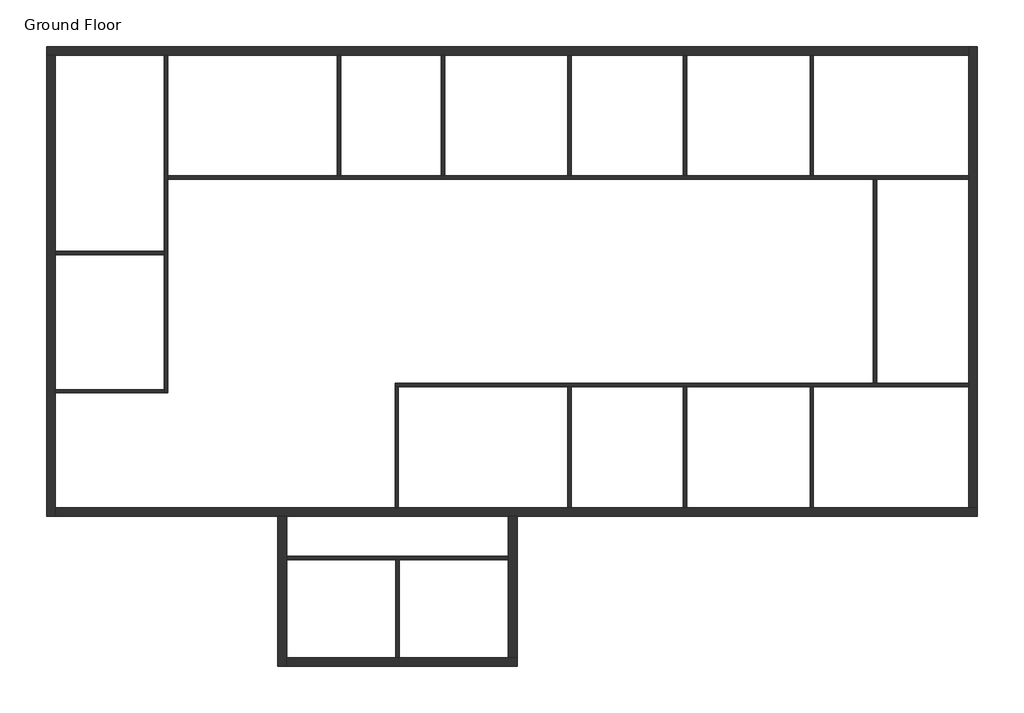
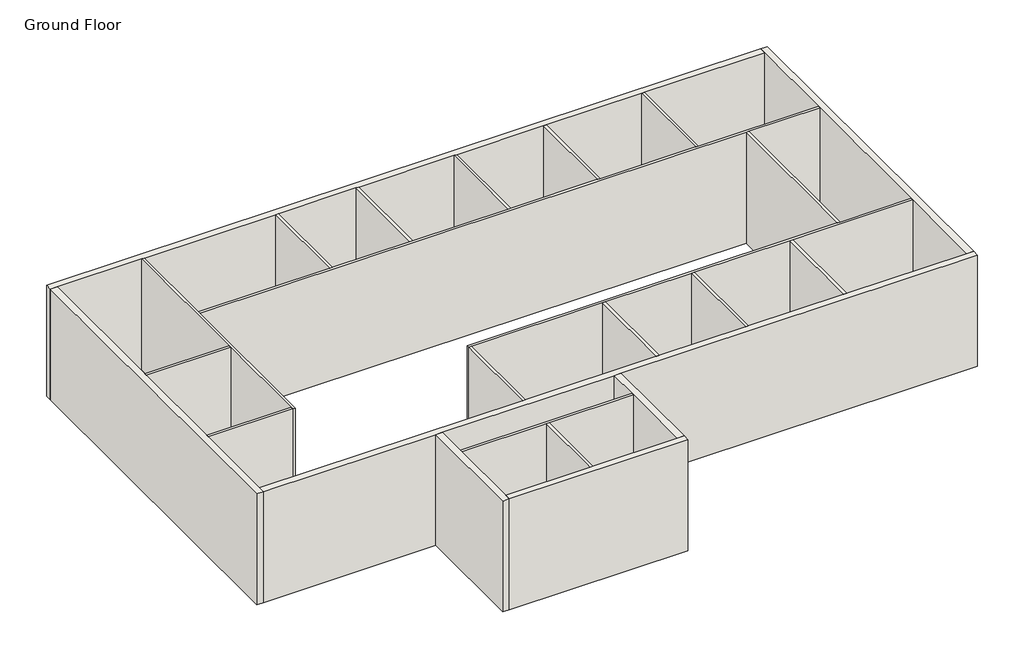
# One storey: 24 walls.
"""IFC4 building model written with IfcOpenShell, lengths in millimetres."""

from ifc_helpers import new_model, si_unit, origin, origin_with_axes, place, context, project, spatial, polyline, outline, extrude, faceted_brep, element, save

model = new_model("IFC4")

# Units and contexts
model_context = context("Model", 3, world=origin())
ifc_project = project(units=[si_unit("LENGTHUNIT", "METRE", prefix="MILLI")], contexts=[model_context])

# Site, building, storey
site = spatial("IfcSite", under=ifc_project)
building = spatial("IfcBuilding", under=site)
storey = spatial("IfcBuildingStorey", under=building, Name="Ground Floor", Elevation=0.0)

# Walls
placement = place(None, origin())
element("IfcWall", 1, ObjectType="Generic - 230mm", at=placement, inside=storey, context=model_context, shape_type="Brep", body=[
    faceted_brep([(-17812.7301809, 6012.2584762, 0.0), (-17582.7301809, 6012.2584762, 0.0), (-14694.7301809, 6012.2584762, 0.0), (-14604.7301809, 6012.2584762, 0.0), (-10122.7301809, 6012.2584762, 0.0), (-10032.7301809, 6012.2584762, 0.0), (-7379.5301809, 6012.2584762, 0.0), (-7289.5301809, 6012.2584762, 0.0), (-4026.7301809, 6012.2584762, 0.0), (-3936.7301809, 6012.2584762, 0.0), (-978.7301809, 6012.2584762, 0.0), (-888.7301809, 6012.2584762, 0.0), (2374.0698191, 6012.2584762, 0.0), (2464.0698191, 6012.2584762, 0.0), (6571.2698191, 6012.2584762, 0.0), (6571.2698191, 6012.2584762, 4000.0), (2464.0698191, 6012.2584762, 4000.0), (2374.0698191, 6012.2584762, 4000.0), (-888.7301809, 6012.2584762, 4000.0), (-978.7301809, 6012.2584762, 4000.0), (-3936.7301809, 6012.2584762, 4000.0), (-4026.7301809, 6012.2584762, 4000.0), (-7289.5301809, 6012.2584762, 4000.0), (-7379.5301809, 6012.2584762, 4000.0), (-10032.7301809, 6012.2584762, 4000.0), (-10122.7301809, 6012.2584762, 4000.0), (-14604.7301809, 6012.2584762, 4000.0), (-14694.7301809, 6012.2584762, 4000.0), (-17582.7301809, 6012.2584762, 4000.0), (-17812.7301809, 6012.2584762, 4000.0), (-17812.7301809, 6242.2584762, 0.0), (-17812.7301809, 6242.2584762, 4000.0), (6571.2698191, 6242.2584762, 4000.0), (6571.2698191, 6242.2584762, 0.0)], [[[0, 1, 2, 3, 4, 5, 6, 7, 8, 9, 10, 11, 12, 13, 14, 15, 16, 17, 18, 19, 20, 21, 22, 23, 24, 25, 26, 27, 28, 29]], [[30, 31, 32, 33]], [[14, 13, 12, 11, 10, 9, 8, 7, 6, 5, 4, 3, 2, 1, 0, 30, 33]], [[29, 28, 27, 26, 25, 24, 23, 22, 21, 20, 19, 18, 17, 16, 15, 32, 31]], [[0, 29, 31, 30]], [[15, 14, 33, 32]]]),
])
element("IfcWall", 2, ObjectType="Generic - 230mm", at=placement, inside=storey, context=model_context, shape_type="Brep", body=[
    faceted_brep([(-17582.7301809, -6179.7415238, 0.0), (-17582.7301809, -5949.7415238, 0.0), (-17582.7301809, -2917.7415238, 0.0), (-17582.7301809, -2827.7415238, 0.0), (-17582.7301809, 739.8584762, 0.0), (-17582.7301809, 829.8584762, 0.0), (-17582.7301809, 6012.2584762, 0.0), (-17582.7301809, 6012.2584762, 4000.0), (-17582.7301809, 829.8584762, 4000.0), (-17582.7301809, 739.8584762, 4000.0), (-17582.7301809, -2827.7415238, 4000.0), (-17582.7301809, -2917.7415238, 4000.0), (-17582.7301809, -5949.7415238, 4000.0), (-17582.7301809, -6179.7415238, 4000.0), (-17812.7301809, -6179.7415238, 0.0), (-17812.7301809, -6179.7415238, 4000.0), (-17812.7301809, 6012.2584762, 4000.0), (-17812.7301809, 6012.2584762, 0.0)], [[[0, 1, 2, 3, 4, 5, 6, 7, 8, 9, 10, 11, 12, 13]], [[14, 15, 16, 17]], [[6, 5, 4, 3, 2, 1, 0, 14, 17]], [[13, 12, 11, 10, 9, 8, 7, 16, 15]], [[0, 13, 15, 14]], [[7, 6, 17, 16]]]),
])
element("IfcWall", 3, ObjectType="Generic - 230mm", at=placement, inside=storey, context=model_context, shape_type="Brep", body=[
    faceted_brep([(6801.2698191, -5949.7415238, 0.0), (6571.2698191, -5949.7415238, 0.0), (2464.0698191, -5949.7415238, 0.0), (2374.0698191, -5949.7415238, 0.0), (-888.7301809, -5949.7415238, 0.0), (-978.7301809, -5949.7415238, 0.0), (-3936.7301809, -5949.7415238, 0.0), (-4026.7301809, -5949.7415238, 0.0), (-8508.7301809, -5949.7415238, 0.0), (-8598.7301809, -5949.7415238, 0.0), (-17582.7301809, -5949.7415238, 0.0), (-17582.7301809, -5949.7415238, 4000.0), (-8598.7301809, -5949.7415238, 4000.0), (-8508.7301809, -5949.7415238, 4000.0), (-4026.7301809, -5949.7415238, 4000.0), (-3936.7301809, -5949.7415238, 4000.0), (-978.7301809, -5949.7415238, 4000.0), (-888.7301809, -5949.7415238, 4000.0), (2374.0698191, -5949.7415238, 4000.0), (2464.0698191, -5949.7415238, 4000.0), (6571.2698191, -5949.7415238, 4000.0), (6801.2698191, -5949.7415238, 4000.0), (6801.2698191, -6179.7415238, 0.0), (6801.2698191, -6179.7415238, 4000.0), (-5371.7301809, -6179.7415238, 4000.0), (-5601.7301809, -6179.7415238, 4000.0), (-11467.7301809, -6179.7415238, 4000.0), (-11697.7301809, -6179.7415238, 4000.0), (-17582.7301809, -6179.7415238, 4000.0), (-17582.7301809, -6179.7415238, 0.0), (-11697.7301809, -6179.7415238, 0.0), (-11467.7301809, -6179.7415238, 0.0), (-5601.7301809, -6179.7415238, 0.0), (-5371.7301809, -6179.7415238, 0.0)], [[[0, 1, 2, 3, 4, 5, 6, 7, 8, 9, 10, 11, 12, 13, 14, 15, 16, 17, 18, 19, 20, 21]], [[22, 23, 24, 25, 26, 27, 28, 29, 30, 31, 32, 33]], [[10, 9, 8, 7, 6, 5, 4, 3, 2, 1, 0, 22, 33, 32, 31, 30, 29]], [[21, 20, 19, 18, 17, 16, 15, 14, 13, 12, 11, 28, 27, 26, 25, 24, 23]], [[0, 21, 23, 22]], [[11, 10, 29, 28]]]),
])
element("IfcWall", 4, ObjectType="Generic - 230mm", at=placement, inside=storey, context=model_context, shape_type="Brep", body=[
    faceted_brep([(6571.2698191, 6242.2584762, 0.0), (6571.2698191, 6012.2584762, 0.0), (6571.2698191, 2819.4584762, 0.0), (6571.2698191, 2729.4584762, 0.0), (6571.2698191, -2666.9415238, 0.0), (6571.2698191, -2756.9415238, 0.0), (6571.2698191, -5949.7415238, 0.0), (6571.2698191, -5949.7415238, 4000.0), (6571.2698191, -2756.9415238, 4000.0), (6571.2698191, -2666.9415238, 4000.0), (6571.2698191, 2729.4584762, 4000.0), (6571.2698191, 2819.4584762, 4000.0), (6571.2698191, 6012.2584762, 4000.0), (6571.2698191, 6242.2584762, 4000.0), (6801.2698191, 6242.2584762, 0.0), (6801.2698191, 6242.2584762, 4000.0), (6801.2698191, -5949.7415238, 4000.0), (6801.2698191, -5949.7415238, 0.0)], [[[0, 1, 2, 3, 4, 5, 6, 7, 8, 9, 10, 11, 12, 13]], [[14, 15, 16, 17]], [[6, 5, 4, 3, 2, 1, 0, 14, 17]], [[13, 12, 11, 10, 9, 8, 7, 16, 15]], [[0, 13, 15, 14]], [[7, 6, 17, 16]]]),
])
element("IfcWall", 5, ObjectType="Generic - 230mm", at=placement, inside=storey, context=model_context, shape_type="Brep", body=[
    faceted_brep([(-11697.7301809, -6179.7415238, 0.0), (-11697.7301809, -10142.1415238, 0.0), (-11697.7301809, -10142.1415238, 4000.0), (-11697.7301809, -6179.7415238, 4000.0), (-11467.7301809, -6179.7415238, 0.0), (-11467.7301809, -6179.7415238, 4000.0), (-11467.7301809, -7238.9415238, 4000.0), (-11467.7301809, -7328.9415238, 4000.0), (-11467.7301809, -9912.1415238, 4000.0), (-11467.7301809, -10142.1415238, 4000.0), (-11467.7301809, -10142.1415238, 0.0), (-11467.7301809, -9912.1415238, 0.0), (-11467.7301809, -7328.9415238, 0.0), (-11467.7301809, -7238.9415238, 0.0)], [[[0, 1, 2, 3]], [[4, 5, 6, 7, 8, 9, 10, 11, 12, 13]], [[1, 0, 4, 13, 12, 11, 10]], [[3, 2, 9, 8, 7, 6, 5]], [[0, 3, 5, 4]], [[2, 1, 10, 9]]]),
])
element("IfcWall", 6, ObjectType="Generic - 230mm", at=placement, inside=storey, context=model_context, shape_type="Brep", body=[
    faceted_brep([(-11467.7301809, -10142.1415238, 0.0), (-5371.7301809, -10142.1415238, 0.0), (-5371.7301809, -10142.1415238, 4000.0), (-11467.7301809, -10142.1415238, 4000.0), (-11467.7301809, -9912.1415238, 0.0), (-11467.7301809, -9912.1415238, 4000.0), (-8579.7301809, -9912.1415238, 4000.0), (-8489.7301809, -9912.1415238, 4000.0), (-5601.7301809, -9912.1415238, 4000.0), (-5371.7301809, -9912.1415238, 4000.0), (-5371.7301809, -9912.1415238, 0.0), (-5601.7301809, -9912.1415238, 0.0), (-8489.7301809, -9912.1415238, 0.0), (-8579.7301809, -9912.1415238, 0.0)], [[[0, 1, 2, 3]], [[4, 5, 6, 7, 8, 9, 10, 11, 12, 13]], [[1, 0, 4, 13, 12, 11, 10]], [[3, 2, 9, 8, 7, 6, 5]], [[0, 3, 5, 4]], [[2, 1, 10, 9]]]),
])
element("IfcWall", 7, ObjectType="Generic - 230mm", at=placement, inside=storey, context=model_context, shape_type="Brep", body=[
    faceted_brep([(-5371.7301809, -9912.1415238, 0.0), (-5371.7301809, -6179.7415238, 0.0), (-5371.7301809, -6179.7415238, 4000.0), (-5371.7301809, -9912.1415238, 4000.0), (-5601.7301809, -9912.1415238, 0.0), (-5601.7301809, -9912.1415238, 4000.0), (-5601.7301809, -7328.9415238, 4000.0), (-5601.7301809, -7238.9415238, 4000.0), (-5601.7301809, -6179.7415238, 4000.0), (-5601.7301809, -6179.7415238, 0.0), (-5601.7301809, -7238.9415238, 0.0), (-5601.7301809, -7328.9415238, 0.0)], [[[0, 1, 2, 3]], [[4, 5, 6, 7, 8, 9, 10, 11]], [[1, 0, 4, 11, 10, 9]], [[3, 2, 8, 7, 6, 5]], [[0, 3, 5, 4]], [[2, 1, 9, 8]]]),
])
element("IfcWall", 8, ObjectType="Generic - 90mm Brick", at=placement, inside=storey, context=model_context, shape_type="Brep", body=[
    faceted_brep([(-14694.7301809, 6012.2584762, 0.0), (-14694.7301809, 829.8584762, 0.0), (-14694.7301809, 739.8584762, 0.0), (-14694.7301809, -2827.7415238, 0.0), (-14694.7301809, -2917.7415238, 0.0), (-14694.7301809, -2917.7415238, 4000.0), (-14694.7301809, -2827.7415238, 4000.0), (-14694.7301809, 739.8584762, 4000.0), (-14694.7301809, 829.8584762, 4000.0), (-14694.7301809, 6012.2584762, 4000.0), (-14604.7301809, 6012.2584762, 0.0), (-14604.7301809, 6012.2584762, 4000.0), (-14604.7301809, 2819.4584762, 4000.0), (-14604.7301809, 2729.4584762, 4000.0), (-14604.7301809, -2917.7415238, 4000.0), (-14604.7301809, -2917.7415238, 0.0), (-14604.7301809, 2729.4584762, 0.0), (-14604.7301809, 2819.4584762, 0.0)], [[[0, 1, 2, 3, 4, 5, 6, 7, 8, 9]], [[10, 11, 12, 13, 14, 15, 16, 17]], [[4, 3, 2, 1, 0, 10, 17, 16, 15]], [[9, 8, 7, 6, 5, 14, 13, 12, 11]], [[0, 9, 11, 10]], [[5, 4, 15, 14]]]),
])
element("IfcWall", 9, ObjectType="Generic - 90mm Brick", at=placement, inside=storey, context=model_context, shape_type="SweptSolid", body=[
    extrude(outline(polyline([(-17582.7301809, -2827.7415238), (-14694.7301809, -2827.7415238), (-14694.7301809, -2917.7415238), (-17582.7301809, -2917.7415238), (-17582.7301809, -2827.7415238)])), origin_with_axes(), (0.0, 0.0, 1.0), 4000.0),
])
element("IfcWall", 10, ObjectType="Generic - 90mm Brick", at=placement, inside=storey, context=model_context, shape_type="Brep", body=[
    faceted_brep([(-14604.7301809, 2729.4584762, 0.0), (4050.4698191, 2729.4584762, 0.0), (4140.4698191, 2729.4584762, 0.0), (6571.2698191, 2729.4584762, 0.0), (6571.2698191, 2729.4584762, 4000.0), (4140.4698191, 2729.4584762, 4000.0), (4050.4698191, 2729.4584762, 4000.0), (-14604.7301809, 2729.4584762, 4000.0), (-14604.7301809, 2819.4584762, 0.0), (-14604.7301809, 2819.4584762, 4000.0), (-10122.7301809, 2819.4584762, 4000.0), (-10032.7301809, 2819.4584762, 4000.0), (-7379.5301809, 2819.4584762, 4000.0), (-7289.5301809, 2819.4584762, 4000.0), (-4026.7301809, 2819.4584762, 4000.0), (-3936.7301809, 2819.4584762, 4000.0), (-978.7301809, 2819.4584762, 4000.0), (-888.7301809, 2819.4584762, 4000.0), (2374.0698191, 2819.4584762, 4000.0), (2464.0698191, 2819.4584762, 4000.0), (6571.2698191, 2819.4584762, 4000.0), (6571.2698191, 2819.4584762, 0.0), (2464.0698191, 2819.4584762, 0.0), (2374.0698191, 2819.4584762, 0.0), (-888.7301809, 2819.4584762, 0.0), (-978.7301809, 2819.4584762, 0.0), (-3936.7301809, 2819.4584762, 0.0), (-4026.7301809, 2819.4584762, 0.0), (-7289.5301809, 2819.4584762, 0.0), (-7379.5301809, 2819.4584762, 0.0), (-10032.7301809, 2819.4584762, 0.0), (-10122.7301809, 2819.4584762, 0.0)], [[[0, 1, 2, 3, 4, 5, 6, 7]], [[8, 9, 10, 11, 12, 13, 14, 15, 16, 17, 18, 19, 20, 21, 22, 23, 24, 25, 26, 27, 28, 29, 30, 31]], [[3, 2, 1, 0, 8, 31, 30, 29, 28, 27, 26, 25, 24, 23, 22, 21]], [[7, 6, 5, 4, 20, 19, 18, 17, 16, 15, 14, 13, 12, 11, 10, 9]], [[0, 7, 9, 8]], [[4, 3, 21, 20]]]),
])
element("IfcWall", 11, ObjectType="Generic - 90mm Brick", at=placement, inside=storey, context=model_context, shape_type="Brep", body=[
    faceted_brep([(6571.2698191, -2666.9415238, 0.0), (4140.4698191, -2666.9415238, 0.0), (4050.4698191, -2666.9415238, 0.0), (-8598.7301809, -2666.9415238, 0.0), (-8598.7301809, -2666.9415238, 4000.0), (4050.4698191, -2666.9415238, 4000.0), (4140.4698191, -2666.9415238, 4000.0), (6571.2698191, -2666.9415238, 4000.0), (6571.2698191, -2756.9415238, 0.0), (6571.2698191, -2756.9415238, 4000.0), (2464.0698191, -2756.9415238, 4000.0), (2374.0698191, -2756.9415238, 4000.0), (-888.7301809, -2756.9415238, 4000.0), (-978.7301809, -2756.9415238, 4000.0), (-3936.7301809, -2756.9415238, 4000.0), (-4026.7301809, -2756.9415238, 4000.0), (-8508.7301809, -2756.9415238, 4000.0), (-8598.7301809, -2756.9415238, 4000.0), (-8598.7301809, -2756.9415238, 0.0), (-8508.7301809, -2756.9415238, 0.0), (-4026.7301809, -2756.9415238, 0.0), (-3936.7301809, -2756.9415238, 0.0), (-978.7301809, -2756.9415238, 0.0), (-888.7301809, -2756.9415238, 0.0), (2374.0698191, -2756.9415238, 0.0), (2464.0698191, -2756.9415238, 0.0)], [[[0, 1, 2, 3, 4, 5, 6, 7]], [[8, 9, 10, 11, 12, 13, 14, 15, 16, 17, 18, 19, 20, 21, 22, 23, 24, 25]], [[3, 2, 1, 0, 8, 25, 24, 23, 22, 21, 20, 19, 18]], [[7, 6, 5, 4, 17, 16, 15, 14, 13, 12, 11, 10, 9]], [[0, 7, 9, 8]], [[4, 3, 18, 17]]]),
])
element("IfcWall", 12, ObjectType="Generic - 90mm Brick", at=placement, inside=storey, context=model_context, shape_type="SweptSolid", body=[
    extrude(outline(polyline([(-8598.7301809, -5949.7415238), (-8598.7301809, -2756.9415238), (-8508.7301809, -2756.9415238), (-8508.7301809, -5949.7415238), (-8598.7301809, -5949.7415238)])), origin_with_axes(), (0.0, 0.0, 1.0), 4000.0),
])
element("IfcWall", 13, ObjectType="Generic - 90mm Brick", at=placement, inside=storey, context=model_context, shape_type="SweptSolid", body=[
    extrude(outline(polyline([(-10122.7301809, 2819.4584762), (-10122.7301809, 6012.2584762), (-10032.7301809, 6012.2584762), (-10032.7301809, 2819.4584762), (-10122.7301809, 2819.4584762)])), origin_with_axes(), (0.0, 0.0, 1.0), 4000.0),
])
element("IfcWall", 14, ObjectType="Generic - 90mm Brick", at=placement, inside=storey, context=model_context, shape_type="SweptSolid", body=[
    extrude(outline(polyline([(-7379.5301809, 2819.4584762), (-7379.5301809, 6012.2584762), (-7289.5301809, 6012.2584762), (-7289.5301809, 2819.4584762), (-7379.5301809, 2819.4584762)])), origin_with_axes(), (0.0, 0.0, 1.0), 4000.0),
])
element("IfcWall", 15, ObjectType="Generic - 90mm Brick", at=placement, inside=storey, context=model_context, shape_type="SweptSolid", body=[
    extrude(outline(polyline([(-4026.7301809, 2819.4584762), (-4026.7301809, 6012.2584762), (-3936.7301809, 6012.2584762), (-3936.7301809, 2819.4584762), (-4026.7301809, 2819.4584762)])), origin_with_axes(), (0.0, 0.0, 1.0), 4000.0),
])
element("IfcWall", 16, ObjectType="Generic - 90mm Brick", at=placement, inside=storey, context=model_context, shape_type="SweptSolid", body=[
    extrude(outline(polyline([(-978.7301809, 2819.4584762), (-978.7301809, 6012.2584762), (-888.7301809, 6012.2584762), (-888.7301809, 2819.4584762), (-978.7301809, 2819.4584762)])), origin_with_axes(), (0.0, 0.0, 1.0), 4000.0),
])
element("IfcWall", 17, ObjectType="Generic - 90mm Brick", at=placement, inside=storey, context=model_context, shape_type="SweptSolid", body=[
    extrude(outline(polyline([(2374.0698191, 2819.4584762), (2374.0698191, 6012.2584762), (2464.0698191, 6012.2584762), (2464.0698191, 2819.4584762), (2374.0698191, 2819.4584762)])), origin_with_axes(), (0.0, 0.0, 1.0), 4000.0),
])
element("IfcWall", 18, ObjectType="Generic - 90mm Brick", at=placement, inside=storey, context=model_context, shape_type="SweptSolid", body=[
    extrude(outline(polyline([(2374.0698191, -5949.7415238), (2374.0698191, -2756.9415238), (2464.0698191, -2756.9415238), (2464.0698191, -5949.7415238), (2374.0698191, -5949.7415238)])), origin_with_axes(), (0.0, 0.0, 1.0), 4000.0),
])
element("IfcWall", 19, ObjectType="Generic - 90mm Brick", at=placement, inside=storey, context=model_context, shape_type="SweptSolid", body=[
    extrude(outline(polyline([(-978.7301809, -5949.7415238), (-978.7301809, -2756.9415238), (-888.7301809, -2756.9415238), (-888.7301809, -5949.7415238), (-978.7301809, -5949.7415238)])), origin_with_axes(), (0.0, 0.0, 1.0), 4000.0),
])
element("IfcWall", 20, ObjectType="Generic - 90mm Brick", at=placement, inside=storey, context=model_context, shape_type="SweptSolid", body=[
    extrude(outline(polyline([(-4026.7301809, -5949.7415238), (-4026.7301809, -2756.9415238), (-3936.7301809, -2756.9415238), (-3936.7301809, -5949.7415238), (-4026.7301809, -5949.7415238)])), origin_with_axes(), (0.0, 0.0, 1.0), 4000.0),
])
element("IfcWall", 21, ObjectType="Generic - 90mm Brick", at=placement, inside=storey, context=model_context, shape_type="SweptSolid", body=[
    extrude(outline(polyline([(4050.4698191, -2666.9415238), (4050.4698191, 2729.4584762), (4140.4698191, 2729.4584762), (4140.4698191, -2666.9415238), (4050.4698191, -2666.9415238)])), origin_with_axes(), (0.0, 0.0, 1.0), 4000.0),
])
element("IfcWall", 22, ObjectType="Generic - 90mm Brick", at=placement, inside=storey, context=model_context, shape_type="Brep", body=[
    faceted_brep([(-11467.7301809, -7328.9415238, 0.0), (-8579.7301809, -7328.9415238, 0.0), (-8489.7301809, -7328.9415238, 0.0), (-5601.7301809, -7328.9415238, 0.0), (-5601.7301809, -7328.9415238, 4000.0), (-8489.7301809, -7328.9415238, 4000.0), (-8579.7301809, -7328.9415238, 4000.0), (-11467.7301809, -7328.9415238, 4000.0), (-11467.7301809, -7238.9415238, 0.0), (-11467.7301809, -7238.9415238, 4000.0), (-5601.7301809, -7238.9415238, 4000.0), (-5601.7301809, -7238.9415238, 0.0)], [[[0, 1, 2, 3, 4, 5, 6, 7]], [[8, 9, 10, 11]], [[3, 2, 1, 0, 8, 11]], [[7, 6, 5, 4, 10, 9]], [[0, 7, 9, 8]], [[4, 3, 11, 10]]]),
])
element("IfcWall", 23, ObjectType="Generic - 90mm Brick", at=placement, inside=storey, context=model_context, shape_type="SweptSolid", body=[
    extrude(outline(polyline([(-8579.7301809, -9912.1415238), (-8579.7301809, -7328.9415238), (-8489.7301809, -7328.9415238), (-8489.7301809, -9912.1415238), (-8579.7301809, -9912.1415238)])), origin_with_axes(), (0.0, 0.0, 1.0), 4000.0),
])
element("IfcWall", 24, ObjectType="Generic - 90mm Brick", at=placement, inside=storey, context=model_context, shape_type="SweptSolid", body=[
    extrude(outline(polyline([(-17582.7301809, 829.8584762), (-14694.7301809, 829.8584762), (-14694.7301809, 739.8584762), (-17582.7301809, 739.8584762), (-17582.7301809, 829.8584762)])), origin_with_axes(), (0.0, 0.0, 1.0), 4000.0),
])

save(model, "model.ifc")
